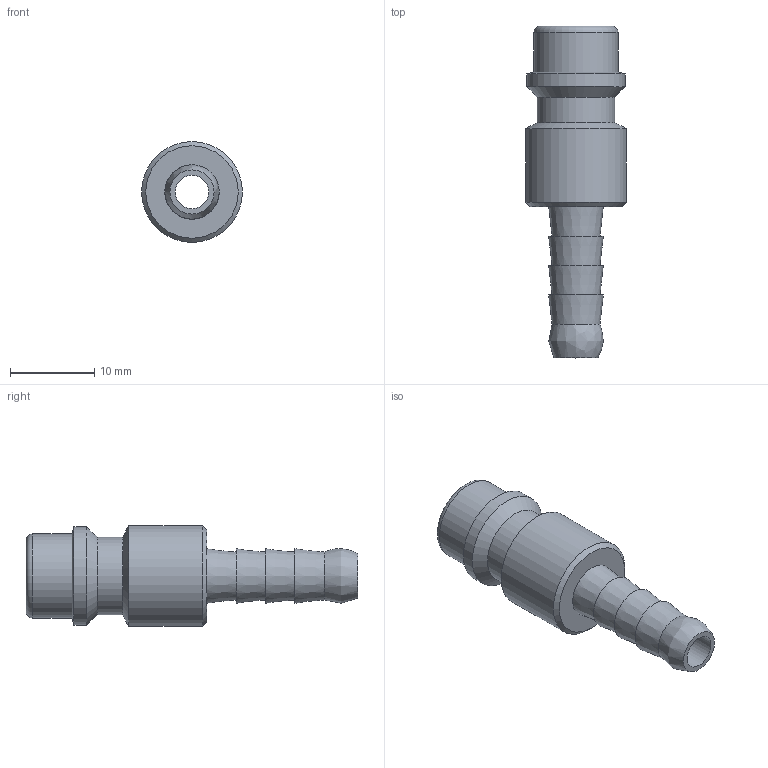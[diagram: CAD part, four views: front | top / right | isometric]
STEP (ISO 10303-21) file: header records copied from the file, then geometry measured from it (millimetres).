
FILE_DESCRIPTION(/* description */ (''),/* implementation_level */ '2;1');
FILE_NAME(/* name */ 'S:\_Tecnico\ArchivioUT\_Disegni3D ingombri\DISEGNI 3D per ingombri\GD\GD900006.stp',/* time_stamp */ '2020-11-20T08:52:49+01:00',/* author */ ('ufficiotecnico3'),/* organization */ (''),/* preprocessor_version */ 'ST-DEVELOPER v18',/* originating_system */ 'Autodesk Inventor 2020',/* authorisation */ '');
FILE_SCHEMA (('AUTOMOTIVE_DESIGN { 1 0 10303 214 3 1 1 }'));
Length unit declared in the file: millimetre
Products named in the file (1): GD900006
Bounding box: 12 x 39.5 x 12 mm (x, y, z)
Volume: 1553.1 mm3; surface area: 1986.6 mm2
Topology: 1 solids, 1 shells, 24 faces, 65 edges, 48 vertices
Faces by surface type: cone 9, plane 7, cylinder 6, torus 1, bspline 1
Full cylindrical faces by diameter (mm): 4 x1, 7 x1, 9.2 x1, 10 x1, 11.7 x1, 12 x1
Entity records: 878 total; most frequent: CARTESIAN_POINT 164, DIRECTION 163, ORIENTED_EDGE 130, AXIS2_PLACEMENT_3D 74, EDGE_CURVE 65, CIRCLE 50, VERTEX_POINT 48, EDGE_LOOP 31
